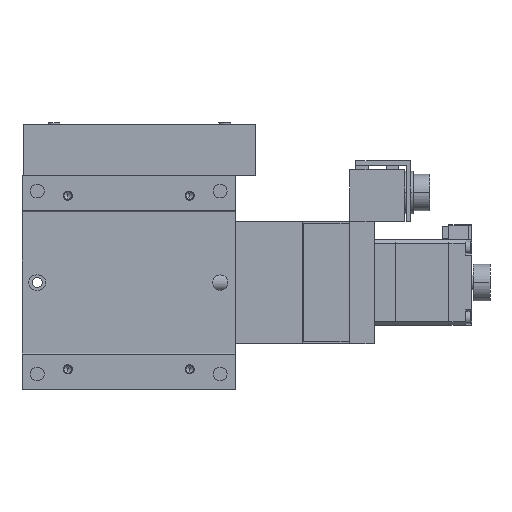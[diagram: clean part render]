
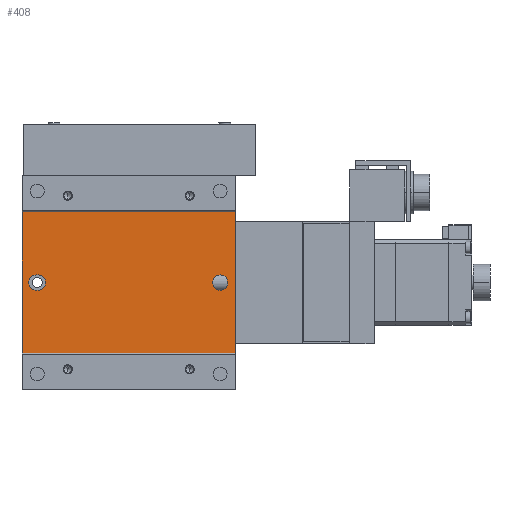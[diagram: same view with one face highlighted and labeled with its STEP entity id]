
A CAD part, front view. The second image highlights one B-rep face of the part: STEP entity #408.
In plain terms, the highlighted planar face has unit normal (0, -1, 0).
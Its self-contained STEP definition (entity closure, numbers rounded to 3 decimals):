
#408=ADVANCED_FACE('',(#1170,#1171,#1172),#1173,.F.);
#1170=FACE_BOUND('',#2587,.T.);
#1171=FACE_OUTER_BOUND('',#2588,.T.);
#1172=FACE_BOUND('',#2589,.T.);
#1173=PLANE('',#2590);
#2587=EDGE_LOOP('',(#4549,#4550,#4551,#4552));
#2588=EDGE_LOOP('',(#4553,#4554,#4555,#4556));
#2589=EDGE_LOOP('',(#4557,#4558,#4559));
#2590=AXIS2_PLACEMENT_3D('',#4560,#4561,#4562);
#4549=ORIENTED_EDGE('',*,*,#9418,.F.);
#4550=ORIENTED_EDGE('',*,*,#9419,.F.);
#4551=ORIENTED_EDGE('',*,*,#9420,.F.);
#4552=ORIENTED_EDGE('',*,*,#9421,.F.);
#4553=ORIENTED_EDGE('',*,*,#9407,.T.);
#4554=ORIENTED_EDGE('',*,*,#9422,.F.);
#4555=ORIENTED_EDGE('',*,*,#9423,.F.);
#4556=ORIENTED_EDGE('',*,*,#9424,.T.);
#4557=ORIENTED_EDGE('',*,*,#9304,.F.);
#4558=ORIENTED_EDGE('',*,*,#9303,.F.);
#4559=ORIENTED_EDGE('',*,*,#9425,.F.);
#4560=CARTESIAN_POINT('',(35.0,0.35,23.15));
#4561=DIRECTION('',(-0.0,1.0,0.));
#4562=DIRECTION('',(1.0,0.0,0.0));
#9303=EDGE_CURVE('',#11087,#11089,#11090,.F.);
#9304=EDGE_CURVE('',#11089,#11083,#11091,.F.);
#9407=EDGE_CURVE('',#11284,#11282,#11285,.T.);
#9418=EDGE_CURVE('',#11304,#11305,#11306,.F.);
#9419=EDGE_CURVE('',#11307,#11304,#11308,.T.);
#9420=EDGE_CURVE('',#11309,#11307,#11310,.F.);
#9421=EDGE_CURVE('',#11305,#11309,#11311,.T.);
#9422=EDGE_CURVE('',#11312,#11282,#11313,.T.);
#9423=EDGE_CURVE('',#11314,#11312,#11315,.T.);
#9424=EDGE_CURVE('',#11314,#11284,#11316,.T.);
#9425=EDGE_CURVE('',#11083,#11087,#11317,.F.);
#11083=VERTEX_POINT('',#13938);
#11087=VERTEX_POINT('',#13943);
#11089=VERTEX_POINT('',#13946);
#11090=CIRCLE('',#13947,2.5);
#11091=CIRCLE('',#13948,2.5);
#11282=VERTEX_POINT('',#14197);
#11284=VERTEX_POINT('',#14200);
#11285=LINE('',#14201,#14202);
#11304=VERTEX_POINT('',#14230);
#11305=VERTEX_POINT('',#14231);
#11306=CIRCLE('',#14232,2.5);
#11307=VERTEX_POINT('',#14233);
#11308=LINE('',#14234,#14235);
#11309=VERTEX_POINT('',#14236);
#11310=CIRCLE('',#14237,2.5);
#11311=LINE('',#14238,#14239);
#11312=VERTEX_POINT('',#14240);
#11313=LINE('',#14241,#14242);
#11314=VERTEX_POINT('',#14243);
#11315=LINE('',#14244,#14245);
#11316=LINE('',#14246,#14247);
#11317=CIRCLE('',#14248,2.5);
#13938=CARTESIAN_POINT('',(27.5,0.35,0.));
#13943=CARTESIAN_POINT('',(32.5,0.35,0.));
#13946=CARTESIAN_POINT('',(30.0,0.35,2.5));
#13947=AXIS2_PLACEMENT_3D('',#17713,#17714,#17715);
#13948=AXIS2_PLACEMENT_3D('',#17716,#17717,#17718);
#14197=CARTESIAN_POINT('',(-35.0,0.35,-23.15));
#14200=CARTESIAN_POINT('',(-35.0,0.35,23.15));
#14201=CARTESIAN_POINT('',(-35.0,0.35,23.15));
#14202=VECTOR('',#17907,1000.0);
#14230=CARTESIAN_POINT('',(-30.25,0.35,2.5));
#14231=CARTESIAN_POINT('',(-30.25,0.35,-2.5));
#14232=AXIS2_PLACEMENT_3D('',#17920,#17921,#17922);
#14233=CARTESIAN_POINT('',(-29.75,0.35,2.5));
#14234=CARTESIAN_POINT('',(35.0,0.35,2.5));
#14235=VECTOR('',#17923,1000.0);
#14236=CARTESIAN_POINT('',(-29.75,0.35,-2.5));
#14237=AXIS2_PLACEMENT_3D('',#17924,#17925,#17926);
#14238=CARTESIAN_POINT('',(35.0,0.35,-2.5));
#14239=VECTOR('',#17927,1000.0);
#14240=CARTESIAN_POINT('',(35.0,0.35,-23.15));
#14241=CARTESIAN_POINT('',(35.0,0.35,-23.15));
#14242=VECTOR('',#17928,1000.0);
#14243=CARTESIAN_POINT('',(35.0,0.35,23.15));
#14244=CARTESIAN_POINT('',(35.0,0.35,23.15));
#14245=VECTOR('',#17929,1000.0);
#14246=CARTESIAN_POINT('',(35.0,0.35,23.15));
#14247=VECTOR('',#17930,1000.0);
#14248=AXIS2_PLACEMENT_3D('',#17931,#17932,#17933);
#17713=CARTESIAN_POINT('',(30.0,0.35,0.0));
#17714=DIRECTION('',(0.0,1.0,0.));
#17715=DIRECTION('',(0.0,0.,1.0));
#17716=CARTESIAN_POINT('',(30.0,0.35,0.0));
#17717=DIRECTION('',(0.0,1.0,0.));
#17718=DIRECTION('',(0.0,0.,1.0));
#17907=DIRECTION('',(0.0,0.,-1.0));
#17920=CARTESIAN_POINT('',(-30.25,0.35,0.));
#17921=DIRECTION('',(0.0,1.0,0.));
#17922=DIRECTION('',(0.0,0.,1.0));
#17923=DIRECTION('',(-1.0,0.0,0.0));
#17924=CARTESIAN_POINT('',(-29.75,0.35,0.));
#17925=DIRECTION('',(0.0,1.0,0.));
#17926=DIRECTION('',(0.0,0.,1.0));
#17927=DIRECTION('',(1.0,0.0,0.0));
#17928=DIRECTION('',(-1.0,0.0,0.0));
#17929=DIRECTION('',(0.0,0.,-1.0));
#17930=DIRECTION('',(-1.0,0.0,0.0));
#17931=CARTESIAN_POINT('',(30.0,0.35,0.0));
#17932=DIRECTION('',(0.0,1.0,0.));
#17933=DIRECTION('',(0.0,0.,1.0));
